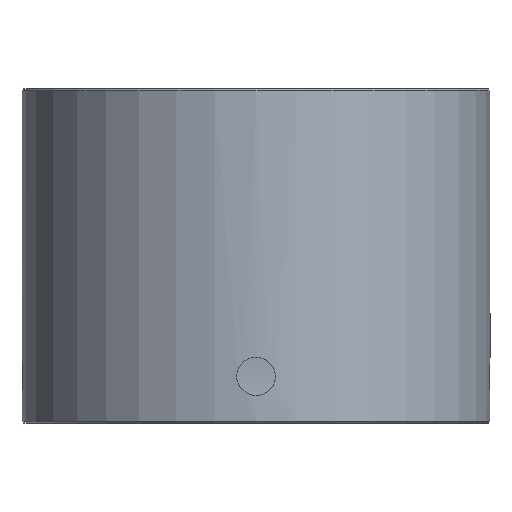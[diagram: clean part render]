
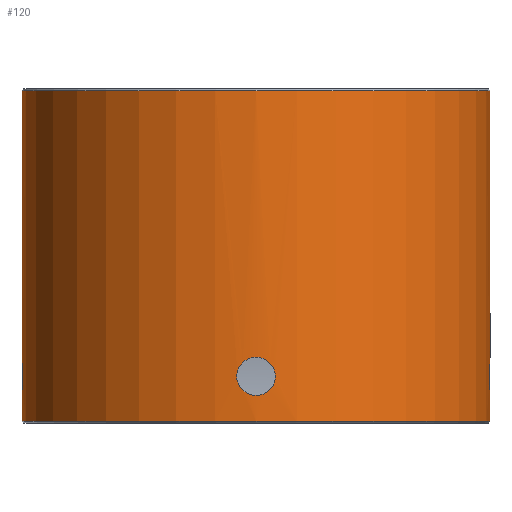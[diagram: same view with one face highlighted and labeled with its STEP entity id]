
A CAD part, front view. The second image highlights one B-rep face of the part: STEP entity #120.
In plain terms, the highlighted cylindrical face has radius 35 mm (diameter 70 mm), a full revolution.
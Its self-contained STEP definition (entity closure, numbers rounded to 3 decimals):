
#91=CYLINDRICAL_SURFACE('',#214,35.);
#92=B_SPLINE_CURVE_WITH_KNOTS('',3,(#264,#265,#266,#267,#268,#269,#270,
#271,#272,#273,#274,#275,#276,#277,#278,#279,#280,#281,#282,#283,#284,#285,
#286,#287,#288),.UNSPECIFIED.,.T.,.F.,(1,3,3,3,3,3,3,3,3,3,1),(-0.125,0.,
0.125,0.25,0.375,0.5,0.625,0.75,0.875,1.,1.125),.UNSPECIFIED.);
#93=B_SPLINE_CURVE_WITH_KNOTS('',3,(#291,#292,#293,#294,#295,#296,#297,
#298,#299,#300,#301,#302,#303,#304,#305,#306,#307,#308,#309,#310,#311,#312,
#313,#314,#315),.UNSPECIFIED.,.T.,.F.,(1,3,3,3,3,3,3,3,3,3,1),(-0.125,0.,
0.125,0.25,0.375,0.5,0.625,0.75,0.875,1.,1.125),.UNSPECIFIED.);
#94=B_SPLINE_CURVE_WITH_KNOTS('',3,(#318,#319,#320,#321,#322,#323,#324,
#325,#326,#327,#328,#329,#330,#331,#332,#333,#334,#335,#336,#337,#338,#339,
#340,#341,#342),.UNSPECIFIED.,.T.,.F.,(1,3,3,3,3,3,3,3,3,3,1),(-0.125,0.,
0.125,0.25,0.375,0.5,0.625,0.75,0.875,1.,1.125),.UNSPECIFIED.);
#95=B_SPLINE_CURVE_WITH_KNOTS('',3,(#345,#346,#347,#348,#349,#350,#351,
#352,#353,#354,#355,#356,#357,#358,#359,#360,#361,#362,#363,#364,#365,#366,
#367,#368,#369),.UNSPECIFIED.,.T.,.F.,(1,3,3,3,3,3,3,3,3,3,1),(-0.125,0.,
0.125,0.25,0.375,0.5,0.625,0.75,0.875,1.,1.125),.UNSPECIFIED.);
#104=FACE_BOUND('',#145,.T.);
#105=FACE_BOUND('',#146,.T.);
#106=FACE_BOUND('',#147,.T.);
#107=FACE_BOUND('',#148,.T.);
#108=FACE_BOUND('',#149,.T.);
#109=FACE_BOUND('',#150,.T.);
#120=ADVANCED_FACE('',(#104,#105,#106,#107,#108,#109),#91,.T.);
#145=EDGE_LOOP('',(#165));
#146=EDGE_LOOP('',(#166));
#147=EDGE_LOOP('',(#167));
#148=EDGE_LOOP('',(#168));
#149=EDGE_LOOP('',(#169));
#150=EDGE_LOOP('',(#170));
#165=ORIENTED_EDGE('',*,*,#185,.T.);
#166=ORIENTED_EDGE('',*,*,#186,.T.);
#167=ORIENTED_EDGE('',*,*,#187,.T.);
#168=ORIENTED_EDGE('',*,*,#188,.T.);
#169=ORIENTED_EDGE('',*,*,#189,.T.);
#170=ORIENTED_EDGE('',*,*,#190,.T.);
#175=VERTEX_POINT('',#289);
#176=VERTEX_POINT('',#316);
#177=VERTEX_POINT('',#343);
#178=VERTEX_POINT('',#370);
#179=VERTEX_POINT('',#373);
#180=VERTEX_POINT('',#376);
#185=EDGE_CURVE('',#175,#175,#92,.T.);
#186=EDGE_CURVE('',#176,#176,#93,.T.);
#187=EDGE_CURVE('',#177,#177,#94,.T.);
#188=EDGE_CURVE('',#178,#178,#95,.T.);
#189=EDGE_CURVE('',#179,#179,#195,.T.);
#190=EDGE_CURVE('',#180,#180,#196,.T.);
#195=CIRCLE('',#210,35.);
#196=CIRCLE('',#212,35.);
#210=AXIS2_PLACEMENT_3D('',#372,#241,#242);
#212=AXIS2_PLACEMENT_3D('',#375,#245,#246);
#214=AXIS2_PLACEMENT_3D('',#378,#249,#250);
#241=DIRECTION('',(0.,0.,-1.));
#242=DIRECTION('',(1.,0.,0.));
#245=DIRECTION('',(0.,0.,1.));
#246=DIRECTION('',(1.,0.,0.));
#249=DIRECTION('',(0.,0.,1.));
#250=DIRECTION('',(1.,0.,0.));
#264=CARTESIAN_POINT('',(0.,-35.,4.15));
#265=CARTESIAN_POINT('',(-0.758,-35.,4.151));
#266=CARTESIAN_POINT('',(-1.509,-34.972,4.457));
#267=CARTESIAN_POINT('',(-2.044,-34.94,4.985));
#268=CARTESIAN_POINT('',(-2.58,-34.909,5.513));
#269=CARTESIAN_POINT('',(-2.891,-34.88,6.255));
#270=CARTESIAN_POINT('',(-2.891,-34.88,7.001));
#271=CARTESIAN_POINT('',(-2.892,-34.88,7.746));
#272=CARTESIAN_POINT('',(-2.58,-34.909,8.487));
#273=CARTESIAN_POINT('',(-2.045,-34.94,9.014));
#274=CARTESIAN_POINT('',(-1.511,-34.971,9.542));
#275=CARTESIAN_POINT('',(-0.755,-35.,9.85));
#276=CARTESIAN_POINT('',(0.003,-35.,9.85));
#277=CARTESIAN_POINT('',(0.761,-35.,9.85));
#278=CARTESIAN_POINT('',(1.51,-34.972,9.543));
#279=CARTESIAN_POINT('',(2.045,-34.94,9.014));
#280=CARTESIAN_POINT('',(2.58,-34.909,8.486));
#281=CARTESIAN_POINT('',(2.891,-34.88,7.745));
#282=CARTESIAN_POINT('',(2.891,-34.88,6.999));
#283=CARTESIAN_POINT('',(2.891,-34.88,6.253));
#284=CARTESIAN_POINT('',(2.578,-34.909,5.511));
#285=CARTESIAN_POINT('',(2.043,-34.94,4.983));
#286=CARTESIAN_POINT('',(1.508,-34.972,4.456));
#287=CARTESIAN_POINT('',(0.757,-35.,4.149));
#288=CARTESIAN_POINT('',(0.,-35.,4.15));
#289=CARTESIAN_POINT('',(0.,-35.,4.15));
#291=CARTESIAN_POINT('',(35.,0.,4.15));
#292=CARTESIAN_POINT('',(35.,-0.758,4.15));
#293=CARTESIAN_POINT('',(34.972,-1.509,4.457));
#294=CARTESIAN_POINT('',(34.94,-2.044,4.985));
#295=CARTESIAN_POINT('',(34.909,-2.58,5.513));
#296=CARTESIAN_POINT('',(34.88,-2.891,6.255));
#297=CARTESIAN_POINT('',(34.88,-2.891,7.001));
#298=CARTESIAN_POINT('',(34.88,-2.892,7.746));
#299=CARTESIAN_POINT('',(34.909,-2.58,8.487));
#300=CARTESIAN_POINT('',(34.94,-2.045,9.014));
#301=CARTESIAN_POINT('',(34.971,-1.511,9.542));
#302=CARTESIAN_POINT('',(35.,-0.755,9.85));
#303=CARTESIAN_POINT('',(35.,0.003,9.85));
#304=CARTESIAN_POINT('',(35.,0.761,9.85));
#305=CARTESIAN_POINT('',(34.972,1.51,9.543));
#306=CARTESIAN_POINT('',(34.94,2.045,9.014));
#307=CARTESIAN_POINT('',(34.909,2.58,8.486));
#308=CARTESIAN_POINT('',(34.88,2.891,7.745));
#309=CARTESIAN_POINT('',(34.88,2.891,6.999));
#310=CARTESIAN_POINT('',(34.88,2.891,6.253));
#311=CARTESIAN_POINT('',(34.909,2.578,5.511));
#312=CARTESIAN_POINT('',(34.94,2.043,4.983));
#313=CARTESIAN_POINT('',(34.972,1.508,4.456));
#314=CARTESIAN_POINT('',(35.,0.758,4.15));
#315=CARTESIAN_POINT('',(35.,0.,4.15));
#316=CARTESIAN_POINT('',(35.,0.,4.15));
#318=CARTESIAN_POINT('',(0.,35.,4.15));
#319=CARTESIAN_POINT('',(0.758,35.,4.151));
#320=CARTESIAN_POINT('',(1.509,34.972,4.457));
#321=CARTESIAN_POINT('',(2.044,34.94,4.985));
#322=CARTESIAN_POINT('',(2.58,34.909,5.513));
#323=CARTESIAN_POINT('',(2.891,34.88,6.255));
#324=CARTESIAN_POINT('',(2.891,34.88,7.001));
#325=CARTESIAN_POINT('',(2.892,34.88,7.746));
#326=CARTESIAN_POINT('',(2.58,34.909,8.487));
#327=CARTESIAN_POINT('',(2.045,34.94,9.014));
#328=CARTESIAN_POINT('',(1.511,34.971,9.542));
#329=CARTESIAN_POINT('',(0.755,35.,9.85));
#330=CARTESIAN_POINT('',(-0.003,35.,9.85));
#331=CARTESIAN_POINT('',(-0.761,35.,9.85));
#332=CARTESIAN_POINT('',(-1.51,34.972,9.543));
#333=CARTESIAN_POINT('',(-2.045,34.94,9.014));
#334=CARTESIAN_POINT('',(-2.58,34.909,8.486));
#335=CARTESIAN_POINT('',(-2.891,34.88,7.745));
#336=CARTESIAN_POINT('',(-2.891,34.88,6.999));
#337=CARTESIAN_POINT('',(-2.891,34.88,6.253));
#338=CARTESIAN_POINT('',(-2.578,34.909,5.511));
#339=CARTESIAN_POINT('',(-2.043,34.94,4.983));
#340=CARTESIAN_POINT('',(-1.508,34.972,4.456));
#341=CARTESIAN_POINT('',(-0.757,35.,4.149));
#342=CARTESIAN_POINT('',(0.,35.,4.15));
#343=CARTESIAN_POINT('',(0.,35.,4.15));
#345=CARTESIAN_POINT('',(-35.,0.,4.15));
#346=CARTESIAN_POINT('',(-35.,0.758,4.151));
#347=CARTESIAN_POINT('',(-34.972,1.509,4.457));
#348=CARTESIAN_POINT('',(-34.94,2.044,4.985));
#349=CARTESIAN_POINT('',(-34.909,2.58,5.513));
#350=CARTESIAN_POINT('',(-34.88,2.891,6.255));
#351=CARTESIAN_POINT('',(-34.88,2.891,7.001));
#352=CARTESIAN_POINT('',(-34.88,2.892,7.746));
#353=CARTESIAN_POINT('',(-34.909,2.58,8.487));
#354=CARTESIAN_POINT('',(-34.94,2.045,9.014));
#355=CARTESIAN_POINT('',(-34.971,1.511,9.542));
#356=CARTESIAN_POINT('',(-35.,0.755,9.85));
#357=CARTESIAN_POINT('',(-35.,-0.003,9.85));
#358=CARTESIAN_POINT('',(-35.,-0.761,9.85));
#359=CARTESIAN_POINT('',(-34.972,-1.51,9.543));
#360=CARTESIAN_POINT('',(-34.94,-2.045,9.014));
#361=CARTESIAN_POINT('',(-34.909,-2.58,8.486));
#362=CARTESIAN_POINT('',(-34.88,-2.891,7.745));
#363=CARTESIAN_POINT('',(-34.88,-2.891,6.999));
#364=CARTESIAN_POINT('',(-34.88,-2.891,6.253));
#365=CARTESIAN_POINT('',(-34.909,-2.578,5.511));
#366=CARTESIAN_POINT('',(-34.94,-2.043,4.983));
#367=CARTESIAN_POINT('',(-34.972,-1.508,4.456));
#368=CARTESIAN_POINT('',(-35.,-0.757,4.149));
#369=CARTESIAN_POINT('',(-35.,0.,4.15));
#370=CARTESIAN_POINT('',(-35.,0.,4.15));
#372=CARTESIAN_POINT('',(0.,0.,49.75));
#373=CARTESIAN_POINT('',(35.,0.,49.75));
#375=CARTESIAN_POINT('',(0.,0.,0.25));
#376=CARTESIAN_POINT('',(35.,0.,0.25));
#378=CARTESIAN_POINT('',(0.,0.,50.));
